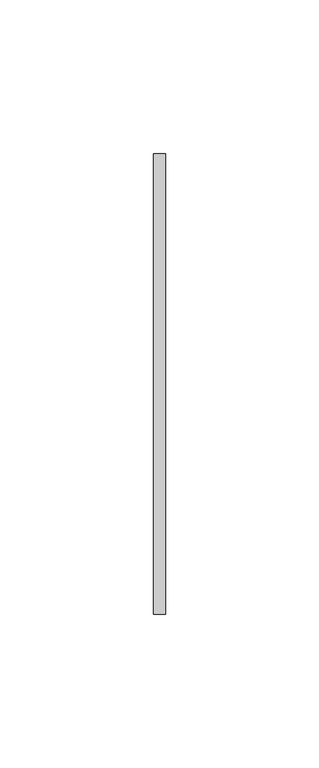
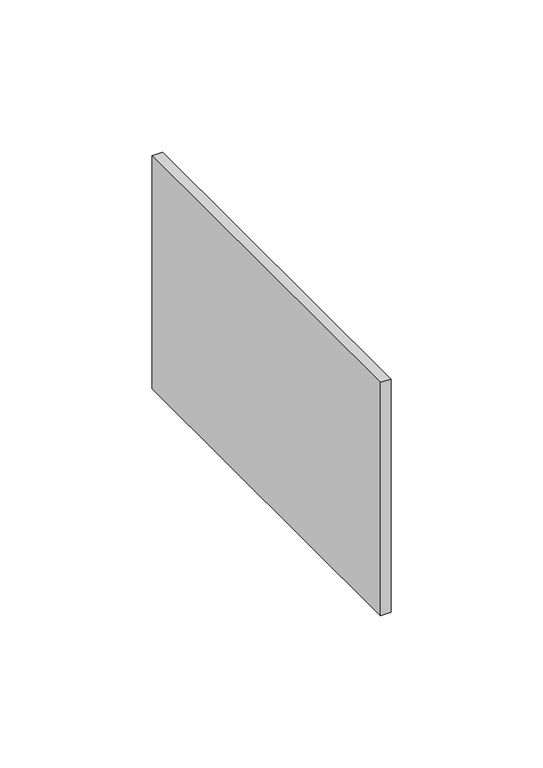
"""IFC4 building model written with IfcOpenShell, lengths in millimetres: proxy geometry, JUI_Juction_H4-Basortrav : Basortrav JUI 4."""

from ifc_helpers import new_model, si_unit, origin, origin_with_axes, place, context, project, spatial, polyline, outline, extrude, source, transform, mapped, element, save


def generic_models_6a893dab(model_context):
    return source(origin(), model_context, "Body", "SweptSolid", [
        extrude(outline(polyline([(4.0, -75.0), (0.0, -75.0), (0.0, 75.0), (4.0, 75.0), (4.0, -75.0)])), origin_with_axes(), (0.0, 0.0, 1.0), 93.5632813),
    ])


if __name__ == "__main__":
    model = new_model("IFC4")
    model_context = context("Model", 3, world=origin())
    ifc_project = project(units=[si_unit("LENGTHUNIT", "METRE", prefix="MILLI")], contexts=[model_context])
    site = spatial("IfcSite", under=ifc_project)
    building = spatial("IfcBuilding", under=site)
    placement = place(None, origin())
    generic_models_shape = generic_models_6a893dab(model_context)
    element("IfcBuildingElementProxy", 1, Name="JUI_Juction_H4-Basortrav : Basortrav JUI 4", ObjectType="JUI_Juction_H4-Basortrav : Basortrav JUI 4", at=placement, inside=building, context=model_context, shape_type="MappedRepresentation", body=[
        mapped(generic_models_shape, transform((0.0, 0.0, 0.0), x_axis=(1.0, 0.0, 0.0), y_axis=(0.0, 1.0, 0.0), z_axis=(0.0, 0.0, 1.0))),
    ])
    save(model, "model.ifc")
